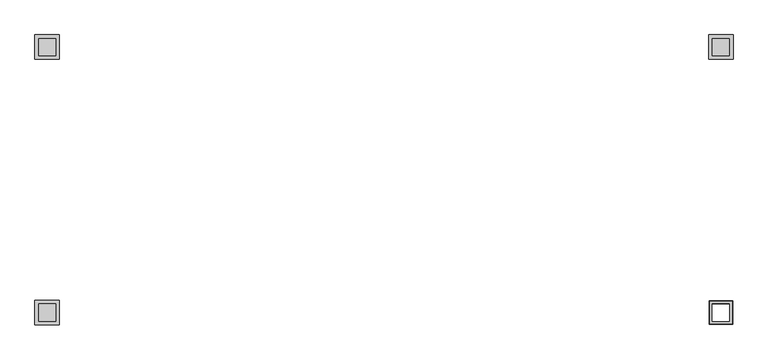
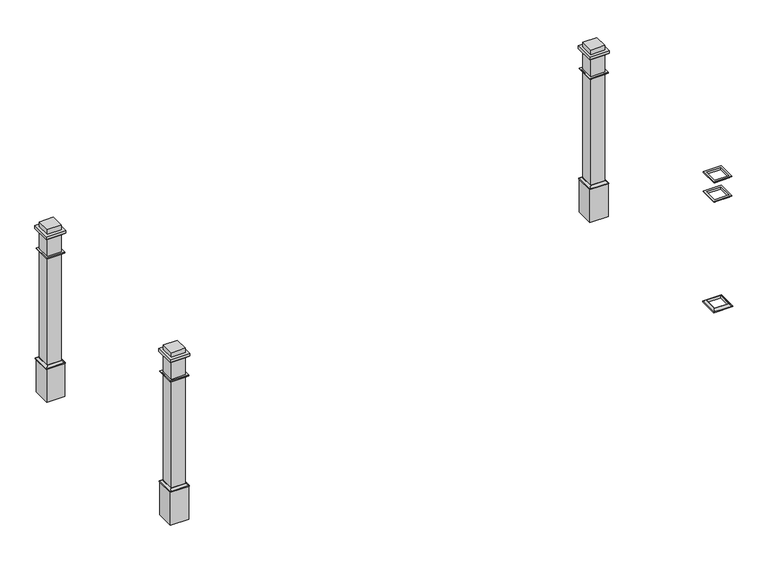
"""IFC4 building model written with IfcOpenShell, lengths in millimetres: railing geometry, Deco Type."""

from ifc_helpers import new_model, si_unit, frame, origin, place, context, project, spatial, polyline, ellipse_curve, outline, extrude, faceted_brep, source, transform, mapped, element, save
from ifc_brep_helpers import plane_surface, revolved_surface, advanced_brep


def railing_f539a773(model_context):
    return source(origin(), model_context, "Body", "SolidModel", [
        advanced_brep(
        [(-6672.1906648, -9796.5505549, 101.6), (-6672.1906648, -9796.5505549, 123.825), (-6551.5406648, -9796.5505549, 123.825), (-6551.5406648, -9796.5505549, 101.6), (-6694.4156648, -9818.7755549, 107.95), (-6694.4156648, -9818.7755549, 101.6), (-6529.3156648, -9818.7755549, 101.6), (-6529.3156648, -9818.7755549, 107.95), (-6678.5406648, -9802.9005549, 123.825), (-6545.1906648, -9802.9005549, 123.825), (-6551.5406648, -9675.9005549, 123.825), (-6551.5406648, -9675.9005549, 101.6), (-6529.3156648, -9653.6755549, 101.6), (-6529.3156648, -9653.6755549, 107.95), (-6545.1906648, -9669.5505549, 123.825), (-6672.1906648, -9675.9005549, 123.825), (-6672.1906648, -9675.9005549, 101.6), (-6694.4156648, -9653.6755549, 101.6), (-6694.4156648, -9653.6755549, 107.95), (-6678.5406648, -9669.5505549, 123.825)],
        [
            (0, 1),
            (1, 2),
            (2, 3),
            (3, 0),
            (4, 5),
            (5, 6),
            (6, 7),
            (7, 4),
            (8, 4, ellipse_curve(frame((-6694.4156648, -9818.7755549, 123.825), z_axis=(-0.7071067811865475, 0.7071067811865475, 0.0), x_axis=(0.7071067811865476, 0.7071067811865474, 0.0)), 22.4506403, 15.875)),
            (7, 9, ellipse_curve(frame((-6529.3156648, -9818.7755549, 123.825), z_axis=(0.7071067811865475, 0.7071067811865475, 0.0), x_axis=(0.7071067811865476, -0.7071067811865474, 0.0)), 22.4506403, 15.875)),
            (9, 8),
            (2, 10),
            (10, 11),
            (11, 3),
            (6, 12),
            (12, 13),
            (13, 7),
            (13, 14, ellipse_curve(frame((-6529.3156648, -9653.6755549, 123.825), z_axis=(-0.7071067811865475, 0.7071067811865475, 0.0), x_axis=(0.7071067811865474, 0.7071067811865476, 0.0)), 22.4506403, 15.875)),
            (14, 9),
            (10, 15),
            (15, 16),
            (16, 11),
            (12, 17),
            (17, 18),
            (18, 13),
            (18, 19, ellipse_curve(frame((-6694.4156648, -9653.6755549, 123.825), z_axis=(-0.7071067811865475, -0.7071067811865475, 0.0), x_axis=(-0.7071067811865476, 0.7071067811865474, 0.0)), 22.4506403, 15.875)),
            (19, 14),
            (15, 1),
            (0, 16),
            (5, 17),
            (4, 18),
            (8, 19),
        ],
        [
            plane_surface(frame((-6672.1906648, -9796.5505549, 123.825), z_axis=(0.0, 1.0, 0.0), x_axis=(1.0, 0.0, 0.0))),
            plane_surface(frame((-6694.4156648, -9818.7755549, 101.6), z_axis=(0.0, -1.0, 0.0), x_axis=(1.0, 0.0, 0.0))),
            revolved_surface(polyline([(-6513.44066480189, -9802.9005549, 123.825), (-6710.29066479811, -9802.9005549, 123.825)]), (-6672.1906648, -9818.7755549, 123.825), (1.0, 0.0, 0.0)),
            plane_surface(frame((-6551.5406648, -9796.5505549, 123.825), z_axis=(-1.0, 0.0, 0.0), x_axis=(0.0, 1.0, 0.0))),
            plane_surface(frame((-6529.3156648, -9818.7755549, 101.6), z_axis=(1.0, 0.0, 0.0), x_axis=(0.0, 1.0, 0.0))),
            revolved_surface(polyline([(-6545.1906648, -9637.80055490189, 123.825), (-6545.1906648, -9834.65055489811, 123.825)]), (-6529.3156648, -9796.5505549, 123.825), (0.0, 1.0, 0.0)),
            plane_surface(frame((-6551.5406648, -9675.9005549, 123.825), z_axis=(0.0, -1.0, 0.0), x_axis=(-1.0, 0.0, 0.0))),
            plane_surface(frame((-6529.3156648, -9653.6755549, 101.6), z_axis=(0.0, 1.0, 0.0), x_axis=(-1.0, 0.0, 0.0))),
            revolved_surface(polyline([(-6710.29066479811, -9669.5505549, 123.825), (-6513.44066480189, -9669.5505549, 123.825)]), (-6551.5406648, -9653.6755549, 123.825), (-1.0, 0.0, 0.0)),
            plane_surface(frame((-6672.1906648, -9675.9005549, 123.825), z_axis=(1.0, 0.0, 0.0), x_axis=(0.0, -1.0, 0.0))),
            plane_surface(frame((-6672.1906648, -9675.9005549, 101.6), z_axis=(0.0, 0.0, -1.0), x_axis=(0.0, -1.0, 0.0))),
            plane_surface(frame((-6694.4156648, -9653.6755549, 101.6), z_axis=(-1.0, 0.0, 0.0), x_axis=(0.0, -1.0, 0.0))),
            revolved_surface(polyline([(-6678.5406648, -9834.65055489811, 123.825), (-6678.5406648, -9637.80055490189, 123.825)]), (-6694.4156648, -9675.9005549, 123.825), (0.0, -1.0, 0.0)),
            plane_surface(frame((-6678.5406648, -9669.5505549, 123.825), z_axis=(0.0, 0.0, 1.0), x_axis=(0.0, -1.0, 0.0))),
        ],
        [
            (0, [[1, 2, 3, 4]]),
            (1, [[5, 6, 7, 8]]),
            (2, [[9, -8, 10, 11]]),
            (3, [[-3, 12, 13, 14]]),
            (4, [[-7, 15, 16, 17]]),
            (5, [[-10, -17, 18, 19]]),
            (6, [[-13, 20, 21, 22]]),
            (7, [[-16, 23, 24, 25]]),
            (8, [[-18, -25, 26, 27]]),
            (9, [[-21, 28, -1, 29]]),
            (10, [[30, -23, -15, -6], [-14, -22, -29, -4]]),
            (11, [[-24, -30, -5, 31]]),
            (12, [[-26, -31, -9, 32]]),
            (13, [[-19, -27, -32, -11], [-28, -20, -12, -2]]),
        ],
    ),
        advanced_brep(
        [(-6672.1906648, -9796.5505549, 1108.075), (-6672.1906648, -9796.5505549, 1127.125), (-6551.5406648, -9796.5505549, 1127.125), (-6551.5406648, -9796.5505549, 1108.075), (-6691.2406648, -9815.6005549, 1120.775), (-6678.5406648, -9802.9005549, 1108.075), (-6545.1906648, -9802.9005549, 1108.075), (-6532.4906648, -9815.6005549, 1120.775), (-6691.2406648, -9815.6005549, 1127.125), (-6532.4906648, -9815.6005549, 1127.125), (-6551.5406648, -9675.9005549, 1127.125), (-6551.5406648, -9675.9005549, 1108.075), (-6545.1906648, -9669.5505549, 1108.075), (-6532.4906648, -9656.8505549, 1120.775), (-6532.4906648, -9656.8505549, 1127.125), (-6672.1906648, -9675.9005549, 1127.125), (-6672.1906648, -9675.9005549, 1108.075), (-6678.5406648, -9669.5505549, 1108.075), (-6691.2406648, -9656.8505549, 1120.775), (-6691.2406648, -9656.8505549, 1127.125)],
        [
            (0, 1),
            (1, 2),
            (2, 3),
            (3, 0),
            (4, 5, ellipse_curve(frame((-6691.2406648, -9815.6005549, 1108.075), z_axis=(-0.7071067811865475, 0.7071067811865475, 0.0), x_axis=(0.7071067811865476, 0.7071067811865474, 0.0)), 17.9605122, 12.7)),
            (5, 6),
            (6, 7, ellipse_curve(frame((-6532.4906648, -9815.6005549, 1108.075), z_axis=(0.7071067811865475, 0.7071067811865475, 0.0), x_axis=(0.7071067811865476, -0.7071067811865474, 0.0)), 17.9605122, 12.7)),
            (7, 4),
            (8, 4),
            (7, 9),
            (9, 8),
            (2, 10),
            (10, 11),
            (11, 3),
            (6, 12),
            (12, 13, ellipse_curve(frame((-6532.4906648, -9656.8505549, 1108.075), z_axis=(-0.7071067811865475, 0.7071067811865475, 0.0), x_axis=(0.7071067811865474, 0.7071067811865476, 0.0)), 17.9605122, 12.7)),
            (13, 7),
            (13, 14),
            (14, 9),
            (10, 15),
            (15, 16),
            (16, 11),
            (12, 17),
            (17, 18, ellipse_curve(frame((-6691.2406648, -9656.8505549, 1108.075), z_axis=(-0.7071067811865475, -0.7071067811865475, 0.0), x_axis=(-0.7071067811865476, 0.7071067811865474, 0.0)), 17.9605122, 12.7)),
            (18, 13),
            (18, 19),
            (19, 14),
            (19, 8),
            (1, 15),
            (0, 16),
            (5, 17),
            (4, 18),
        ],
        [
            plane_surface(frame((-6672.1906648, -9796.5505549, 1127.125), z_axis=(0.0, 1.0, 0.0), x_axis=(1.0, 0.0, 0.0))),
            revolved_surface(polyline([(-6519.790664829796, -9802.9005549, 1108.075), (-6703.9406647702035, -9802.9005549, 1108.075)]), (-6672.1906648, -9815.6005549, 1108.075), (1.0, 0.0, 0.0)),
            plane_surface(frame((-6691.2406648, -9815.6005549, 1120.775), z_axis=(0.0, -1.0, 0.0), x_axis=(1.0, 0.0, 0.0))),
            plane_surface(frame((-6551.5406648, -9796.5505549, 1127.125), z_axis=(-1.0, 0.0, 0.0), x_axis=(0.0, 1.0, 0.0))),
            revolved_surface(polyline([(-6545.1906647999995, -9644.150554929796, 1108.075), (-6545.1906647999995, -9828.300554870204, 1108.075)]), (-6532.4906648, -9796.5505549, 1108.075), (0.0, 1.0, 0.0)),
            plane_surface(frame((-6532.4906648, -9815.6005549, 1120.775), z_axis=(1.0, 0.0, 0.0), x_axis=(0.0, 1.0, 0.0))),
            plane_surface(frame((-6551.5406648, -9675.9005549, 1127.125), z_axis=(0.0, -1.0, 0.0), x_axis=(-1.0, 0.0, 0.0))),
            revolved_surface(polyline([(-6703.9406647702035, -9669.5505549, 1108.075), (-6519.790664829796, -9669.5505549, 1108.075)]), (-6551.5406648, -9656.8505549, 1108.075), (-1.0, 0.0, 0.0)),
            plane_surface(frame((-6532.4906648, -9656.8505549, 1120.775), z_axis=(0.0, 1.0, 0.0), x_axis=(-1.0, 0.0, 0.0))),
            plane_surface(frame((-6691.2406648, -9656.8505549, 1127.125), z_axis=(0.0, 0.0, 1.0), x_axis=(0.0, -1.0, 0.0))),
            plane_surface(frame((-6672.1906648, -9675.9005549, 1127.125), z_axis=(1.0, 0.0, 0.0), x_axis=(0.0, -1.0, 0.0))),
            plane_surface(frame((-6672.1906648, -9675.9005549, 1108.075), z_axis=(0.0, 0.0, -1.0), x_axis=(0.0, -1.0, 0.0))),
            revolved_surface(polyline([(-6678.5406648, -9828.300554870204, 1108.075), (-6678.5406648, -9644.150554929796, 1108.075)]), (-6691.2406648, -9675.9005549, 1108.075), (0.0, -1.0, 0.0)),
            plane_surface(frame((-6691.2406648, -9656.8505549, 1120.775), z_axis=(-1.0, 0.0, 0.0), x_axis=(0.0, -1.0, 0.0))),
        ],
        [
            (0, [[1, 2, 3, 4]]),
            (1, [[5, 6, 7, 8]]),
            (2, [[9, -8, 10, 11]]),
            (3, [[-3, 12, 13, 14]]),
            (4, [[-7, 15, 16, 17]]),
            (5, [[-10, -17, 18, 19]]),
            (6, [[-13, 20, 21, 22]]),
            (7, [[-16, 23, 24, 25]]),
            (8, [[-18, -25, 26, 27]]),
            (9, [[-19, -27, 28, -11], [29, -20, -12, -2]]),
            (10, [[-21, -29, -1, 30]]),
            (11, [[31, -23, -15, -6], [-14, -22, -30, -4]]),
            (12, [[-24, -31, -5, 32]]),
            (13, [[-26, -32, -9, -28]]),
        ],
    ),
        faceted_brep([(-6672.1906648, -9796.5505549, 1285.875), (-6672.1906648, -9796.5505549, 1304.925), (-6551.5406648, -9796.5505549, 1304.925), (-6551.5406648, -9796.5505549, 1285.875), (-6678.5406648, -9802.9005549, 1298.575), (-6678.5406648, -9802.9005549, 1285.875), (-6545.1906648, -9802.9005549, 1285.875), (-6545.1906648, -9802.9005549, 1298.575), (-6691.2406648, -9815.6005549, 1304.925), (-6691.2406648, -9815.6005549, 1298.575), (-6532.4906648, -9815.6005549, 1298.575), (-6532.4906648, -9815.6005549, 1304.925), (-6551.5406648, -9675.9005549, 1304.925), (-6551.5406648, -9675.9005549, 1285.875), (-6545.1906648, -9669.5505549, 1285.875), (-6545.1906648, -9669.5505549, 1298.575), (-6532.4906648, -9656.8505549, 1298.575), (-6532.4906648, -9656.8505549, 1304.925), (-6672.1906648, -9675.9005549, 1304.925), (-6672.1906648, -9675.9005549, 1285.875), (-6678.5406648, -9669.5505549, 1285.875), (-6678.5406648, -9669.5505549, 1298.575), (-6691.2406648, -9656.8505549, 1298.575), (-6691.2406648, -9656.8505549, 1304.925)], [[[0, 1, 2, 3]], [[4, 5, 6, 7]], [[8, 9, 10, 11]], [[3, 2, 12, 13]], [[7, 6, 14, 15]], [[11, 10, 16, 17]], [[13, 12, 18, 19]], [[15, 14, 20, 21]], [[17, 16, 22, 23]], [[19, 18, 1, 0]], [[5, 20, 14, 6], [3, 13, 19, 0]], [[21, 20, 5, 4]], [[9, 22, 16, 10], [7, 15, 21, 4]], [[23, 22, 9, 8]], [[11, 17, 23, 8], [1, 18, 12, 2]]]),
        extrude(outline(polyline([(-11275.1469148, -9656.8505549), (-11275.1469148, -9815.6005549), (-11433.8969148, -9815.6005549), (-11433.8969148, -9656.8505549), (-11275.1469148, -9656.8505549)])), frame((0.0, 0.0, -203.2), z_axis=(0.0, 0.0, 1.0), x_axis=(1.0, 0.0, 0.0)), (0.0, 0.0, 1.0), 304.8),
        extrude(outline(polyline([(-11294.1969148, -9675.9005549), (-11294.1969148, -9796.5505549), (-11414.8469148, -9796.5505549), (-11414.8469148, -9675.9005549), (-11294.1969148, -9675.9005549)])), frame((0.0, 0.0, 101.6), z_axis=(0.0, 0.0, 1.0), x_axis=(1.0, 0.0, 0.0)), (0.0, 0.0, 1.0), 1270.0),
        extrude(outline(polyline([(-11440.2469148, -9650.5005549), (-11268.7969148, -9650.5005549), (-11268.7969148, -9821.9505549), (-11440.2469148, -9821.9505549), (-11440.2469148, -9650.5005549)]), holes=[polyline([(-11414.8469148, -9796.5505549), (-11294.1969148, -9796.5505549), (-11294.1969148, -9675.9005549), (-11414.8469148, -9675.9005549), (-11414.8469148, -9796.5505549)])]), frame((0.0, 0.0, 1304.925), z_axis=(0.0, 0.0, 1.0), x_axis=(1.0, 0.0, 0.0)), (0.0, 0.0, 1.0), 25.4),
        advanced_brep(
        [(-11414.8469148, -9675.9005549, 101.6), (-11414.8469148, -9675.9005549, 123.825), (-11414.8469148, -9796.5505549, 123.825), (-11414.8469148, -9796.5505549, 101.6), (-11437.0719148, -9653.6755549, 107.95), (-11437.0719148, -9653.6755549, 101.6), (-11437.0719148, -9818.7755549, 101.6), (-11437.0719148, -9818.7755549, 107.95), (-11421.1969148, -9669.5505549, 123.825), (-11421.1969148, -9802.9005549, 123.825), (-11294.1969148, -9796.5505549, 123.825), (-11294.1969148, -9796.5505549, 101.6), (-11271.9719148, -9818.7755549, 101.6), (-11271.9719148, -9818.7755549, 107.95), (-11287.8469148, -9802.9005549, 123.825), (-11294.1969148, -9675.9005549, 123.825), (-11294.1969148, -9675.9005549, 101.6), (-11271.9719148, -9653.6755549, 101.6), (-11271.9719148, -9653.6755549, 107.95), (-11287.8469148, -9669.5505549, 123.825)],
        [
            (0, 1),
            (1, 2),
            (2, 3),
            (3, 0),
            (4, 5),
            (5, 6),
            (6, 7),
            (7, 4),
            (8, 4, ellipse_curve(frame((-11437.0719148, -9653.6755549, 123.825), z_axis=(0.7071067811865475, 0.7071067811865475, 0.0), x_axis=(0.7071067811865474, -0.7071067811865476, 0.0)), 22.4506403, 15.875)),
            (7, 9, ellipse_curve(frame((-11437.0719148, -9818.7755549, 123.825), z_axis=(0.7071067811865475, -0.7071067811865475, 0.0), x_axis=(-0.7071067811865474, -0.7071067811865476, 0.0)), 22.4506403, 15.875)),
            (9, 8),
            (2, 10),
            (10, 11),
            (11, 3),
            (6, 12),
            (12, 13),
            (13, 7),
            (13, 14, ellipse_curve(frame((-11271.9719148, -9818.7755549, 123.825), z_axis=(0.7071067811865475, 0.7071067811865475, 0.0), x_axis=(0.7071067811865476, -0.7071067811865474, 0.0)), 22.4506403, 15.875)),
            (14, 9),
            (10, 15),
            (15, 16),
            (16, 11),
            (12, 17),
            (17, 18),
            (18, 13),
            (18, 19, ellipse_curve(frame((-11271.9719148, -9653.6755549, 123.825), z_axis=(-0.7071067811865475, 0.7071067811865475, 0.0), x_axis=(0.7071067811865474, 0.7071067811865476, 0.0)), 22.4506403, 15.875)),
            (19, 14),
            (15, 1),
            (0, 16),
            (5, 17),
            (4, 18),
            (8, 19),
        ],
        [
            plane_surface(frame((-11414.8469148, -9675.9005549, 123.825), z_axis=(1.0, 0.0, 0.0), x_axis=(0.0, -1.0, 0.0))),
            plane_surface(frame((-11437.0719148, -9653.6755549, 101.6), z_axis=(-1.0, 0.0, 0.0), x_axis=(0.0, -1.0, 0.0))),
            revolved_surface(polyline([(-11421.1969148, -9834.65055489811, 123.825), (-11421.1969148, -9637.80055490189, 123.825)]), (-11437.0719148, -9675.9005549, 123.825), (0.0, -1.0, 0.0)),
            plane_surface(frame((-11414.8469148, -9796.5505549, 123.825), z_axis=(0.0, 1.0, 0.0), x_axis=(1.0, 0.0, 0.0))),
            plane_surface(frame((-11437.0719148, -9818.7755549, 101.6), z_axis=(0.0, -1.0, 0.0), x_axis=(1.0, 0.0, 0.0))),
            revolved_surface(polyline([(-11256.09691480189, -9802.9005549, 123.825), (-11452.94691479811, -9802.9005549, 123.825)]), (-11414.8469148, -9818.7755549, 123.825), (1.0, 0.0, 0.0)),
            plane_surface(frame((-11294.1969148, -9796.5505549, 123.825), z_axis=(-1.0, 0.0, 0.0), x_axis=(0.0, 1.0, 0.0))),
            plane_surface(frame((-11271.9719148, -9818.7755549, 101.6), z_axis=(1.0, 0.0, 0.0), x_axis=(0.0, 1.0, 0.0))),
            revolved_surface(polyline([(-11287.8469148, -9637.80055490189, 123.825), (-11287.8469148, -9834.65055489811, 123.825)]), (-11271.9719148, -9796.5505549, 123.825), (0.0, 1.0, 0.0)),
            plane_surface(frame((-11294.1969148, -9675.9005549, 123.825), z_axis=(0.0, -1.0, 0.0), x_axis=(-1.0, 0.0, 0.0))),
            plane_surface(frame((-11294.1969148, -9675.9005549, 101.6), z_axis=(0.0, 0.0, -1.0), x_axis=(-1.0, 0.0, 0.0))),
            plane_surface(frame((-11271.9719148, -9653.6755549, 101.6), z_axis=(0.0, 1.0, 0.0), x_axis=(-1.0, 0.0, 0.0))),
            revolved_surface(polyline([(-11452.94691479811, -9669.5505549, 123.825), (-11256.09691480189, -9669.5505549, 123.825)]), (-11294.1969148, -9653.6755549, 123.825), (-1.0, 0.0, 0.0)),
            plane_surface(frame((-11287.8469148, -9669.5505549, 123.825), z_axis=(0.0, 0.0, 1.0), x_axis=(-1.0, 0.0, 0.0))),
        ],
        [
            (0, [[1, 2, 3, 4]]),
            (1, [[5, 6, 7, 8]]),
            (2, [[9, -8, 10, 11]]),
            (3, [[-3, 12, 13, 14]]),
            (4, [[-7, 15, 16, 17]]),
            (5, [[-10, -17, 18, 19]]),
            (6, [[-13, 20, 21, 22]]),
            (7, [[-16, 23, 24, 25]]),
            (8, [[-18, -25, 26, 27]]),
            (9, [[-21, 28, -1, 29]]),
            (10, [[30, -23, -15, -6], [-14, -22, -29, -4]]),
            (11, [[-24, -30, -5, 31]]),
            (12, [[-26, -31, -9, 32]]),
            (13, [[-19, -27, -32, -11], [-28, -20, -12, -2]]),
        ],
    ),
        advanced_brep(
        [(-11414.8469148, -9675.9005549, 1108.075), (-11414.8469148, -9675.9005549, 1127.125), (-11414.8469148, -9796.5505549, 1127.125), (-11414.8469148, -9796.5505549, 1108.075), (-11433.8969148, -9656.8505549, 1120.775), (-11421.1969148, -9669.5505549, 1108.075), (-11421.1969148, -9802.9005549, 1108.075), (-11433.8969148, -9815.6005549, 1120.775), (-11433.8969148, -9656.8505549, 1127.125), (-11433.8969148, -9815.6005549, 1127.125), (-11294.1969148, -9796.5505549, 1127.125), (-11294.1969148, -9796.5505549, 1108.075), (-11287.8469148, -9802.9005549, 1108.075), (-11275.1469148, -9815.6005549, 1120.775), (-11275.1469148, -9815.6005549, 1127.125), (-11294.1969148, -9675.9005549, 1127.125), (-11294.1969148, -9675.9005549, 1108.075), (-11287.8469148, -9669.5505549, 1108.075), (-11275.1469148, -9656.8505549, 1120.775), (-11275.1469148, -9656.8505549, 1127.125)],
        [
            (0, 1),
            (1, 2),
            (2, 3),
            (3, 0),
            (4, 5, ellipse_curve(frame((-11433.8969148, -9656.8505549, 1108.075), z_axis=(0.7071067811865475, 0.7071067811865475, 0.0), x_axis=(0.7071067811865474, -0.7071067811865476, 0.0)), 17.9605122, 12.7)),
            (5, 6),
            (6, 7, ellipse_curve(frame((-11433.8969148, -9815.6005549, 1108.075), z_axis=(0.7071067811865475, -0.7071067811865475, 0.0), x_axis=(-0.7071067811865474, -0.7071067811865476, 0.0)), 17.9605122, 12.7)),
            (7, 4),
            (8, 4),
            (7, 9),
            (9, 8),
            (2, 10),
            (10, 11),
            (11, 3),
            (6, 12),
            (12, 13, ellipse_curve(frame((-11275.1469148, -9815.6005549, 1108.075), z_axis=(0.7071067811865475, 0.7071067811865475, 0.0), x_axis=(0.7071067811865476, -0.7071067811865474, 0.0)), 17.9605122, 12.7)),
            (13, 7),
            (13, 14),
            (14, 9),
            (10, 15),
            (15, 16),
            (16, 11),
            (12, 17),
            (17, 18, ellipse_curve(frame((-11275.1469148, -9656.8505549, 1108.075), z_axis=(-0.7071067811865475, 0.7071067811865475, 0.0), x_axis=(0.7071067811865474, 0.7071067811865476, 0.0)), 17.9605122, 12.7)),
            (18, 13),
            (18, 19),
            (19, 14),
            (19, 8),
            (1, 15),
            (0, 16),
            (5, 17),
            (4, 18),
        ],
        [
            plane_surface(frame((-11414.8469148, -9675.9005549, 1127.125), z_axis=(1.0, 0.0, 0.0), x_axis=(0.0, -1.0, 0.0))),
            revolved_surface(polyline([(-11421.196914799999, -9828.300554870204, 1108.075), (-11421.196914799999, -9644.150554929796, 1108.075)]), (-11433.8969148, -9675.9005549, 1108.075), (0.0, -1.0, 0.0)),
            plane_surface(frame((-11433.8969148, -9656.8505549, 1120.775), z_axis=(-1.0, 0.0, 0.0), x_axis=(0.0, -1.0, 0.0))),
            plane_surface(frame((-11414.8469148, -9796.5505549, 1127.125), z_axis=(0.0, 1.0, 0.0), x_axis=(1.0, 0.0, 0.0))),
            revolved_surface(polyline([(-11262.446914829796, -9802.9005549, 1108.075), (-11446.596914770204, -9802.9005549, 1108.075)]), (-11414.8469148, -9815.6005549, 1108.075), (1.0, 0.0, 0.0)),
            plane_surface(frame((-11433.8969148, -9815.6005549, 1120.775), z_axis=(0.0, -1.0, 0.0), x_axis=(1.0, 0.0, 0.0))),
            plane_surface(frame((-11294.1969148, -9796.5505549, 1127.125), z_axis=(-1.0, 0.0, 0.0), x_axis=(0.0, 1.0, 0.0))),
            revolved_surface(polyline([(-11287.8469148, -9644.150554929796, 1108.075), (-11287.8469148, -9828.300554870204, 1108.075)]), (-11275.1469148, -9796.5505549, 1108.075), (0.0, 1.0, 0.0)),
            plane_surface(frame((-11275.1469148, -9815.6005549, 1120.775), z_axis=(1.0, 0.0, 0.0), x_axis=(0.0, 1.0, 0.0))),
            plane_surface(frame((-11275.1469148, -9656.8505549, 1127.125), z_axis=(0.0, 0.0, 1.0), x_axis=(-1.0, 0.0, 0.0))),
            plane_surface(frame((-11294.1969148, -9675.9005549, 1127.125), z_axis=(0.0, -1.0, 0.0), x_axis=(-1.0, 0.0, 0.0))),
            plane_surface(frame((-11294.1969148, -9675.9005549, 1108.075), z_axis=(0.0, 0.0, -1.0), x_axis=(-1.0, 0.0, 0.0))),
            revolved_surface(polyline([(-11446.596914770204, -9669.5505549, 1108.075), (-11262.446914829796, -9669.5505549, 1108.075)]), (-11294.1969148, -9656.8505549, 1108.075), (-1.0, 0.0, 0.0)),
            plane_surface(frame((-11275.1469148, -9656.8505549, 1120.775), z_axis=(0.0, 1.0, 0.0), x_axis=(-1.0, 0.0, 0.0))),
        ],
        [
            (0, [[1, 2, 3, 4]]),
            (1, [[5, 6, 7, 8]]),
            (2, [[9, -8, 10, 11]]),
            (3, [[-3, 12, 13, 14]]),
            (4, [[-7, 15, 16, 17]]),
            (5, [[-10, -17, 18, 19]]),
            (6, [[-13, 20, 21, 22]]),
            (7, [[-16, 23, 24, 25]]),
            (8, [[-18, -25, 26, 27]]),
            (9, [[-19, -27, 28, -11], [29, -20, -12, -2]]),
            (10, [[-21, -29, -1, 30]]),
            (11, [[31, -23, -15, -6], [-14, -22, -30, -4]]),
            (12, [[-24, -31, -5, 32]]),
            (13, [[-26, -32, -9, -28]]),
        ],
    ),
        faceted_brep([(-11414.8469148, -9675.9005549, 1285.875), (-11414.8469148, -9675.9005549, 1304.925), (-11414.8469148, -9796.5505549, 1304.925), (-11414.8469148, -9796.5505549, 1285.875), (-11421.1969148, -9669.5505549, 1298.575), (-11421.1969148, -9669.5505549, 1285.875), (-11421.1969148, -9802.9005549, 1285.875), (-11421.1969148, -9802.9005549, 1298.575), (-11433.8969148, -9656.8505549, 1304.925), (-11433.8969148, -9656.8505549, 1298.575), (-11433.8969148, -9815.6005549, 1298.575), (-11433.8969148, -9815.6005549, 1304.925), (-11294.1969148, -9796.5505549, 1304.925), (-11294.1969148, -9796.5505549, 1285.875), (-11287.8469148, -9802.9005549, 1285.875), (-11287.8469148, -9802.9005549, 1298.575), (-11275.1469148, -9815.6005549, 1298.575), (-11275.1469148, -9815.6005549, 1304.925), (-11294.1969148, -9675.9005549, 1304.925), (-11294.1969148, -9675.9005549, 1285.875), (-11287.8469148, -9669.5505549, 1285.875), (-11287.8469148, -9669.5505549, 1298.575), (-11275.1469148, -9656.8505549, 1298.575), (-11275.1469148, -9656.8505549, 1304.925)], [[[0, 1, 2, 3]], [[4, 5, 6, 7]], [[8, 9, 10, 11]], [[3, 2, 12, 13]], [[7, 6, 14, 15]], [[11, 10, 16, 17]], [[13, 12, 18, 19]], [[15, 14, 20, 21]], [[17, 16, 22, 23]], [[19, 18, 1, 0]], [[5, 20, 14, 6], [3, 13, 19, 0]], [[21, 20, 5, 4]], [[9, 22, 16, 10], [7, 15, 21, 4]], [[23, 22, 9, 8]], [[11, 17, 23, 8], [1, 18, 12, 2]]]),
        extrude(outline(polyline([(-6691.2406648, -7943.5411799), (-6691.2406648, -7784.7911799), (-6532.4906648, -7784.7911799), (-6532.4906648, -7943.5411799), (-6691.2406648, -7943.5411799)])), frame((0.0, 0.0, -203.2), z_axis=(0.0, 0.0, 1.0), x_axis=(1.0, 0.0, 0.0)), (0.0, 0.0, 1.0), 304.8),
        extrude(outline(polyline([(-6672.1906648, -7924.4911799), (-6672.1906648, -7803.8411799), (-6551.5406648, -7803.8411799), (-6551.5406648, -7924.4911799), (-6672.1906648, -7924.4911799)])), frame((0.0, 0.0, 101.6), z_axis=(0.0, 0.0, 1.0), x_axis=(1.0, 0.0, 0.0)), (0.0, 0.0, 1.0), 1270.0),
        extrude(outline(polyline([(-6526.1406648, -7949.8911799), (-6697.5906648, -7949.8911799), (-6697.5906648, -7778.4411799), (-6526.1406648, -7778.4411799), (-6526.1406648, -7949.8911799)]), holes=[polyline([(-6551.5406648, -7803.8411799), (-6672.1906648, -7803.8411799), (-6672.1906648, -7924.4911799), (-6551.5406648, -7924.4911799), (-6551.5406648, -7803.8411799)])]), frame((0.0, 0.0, 1304.925), z_axis=(0.0, 0.0, 1.0), x_axis=(1.0, 0.0, 0.0)), (0.0, 0.0, 1.0), 25.4),
        advanced_brep(
        [(-6551.5406648, -7924.4911799, 101.6), (-6551.5406648, -7924.4911799, 123.825), (-6551.5406648, -7803.8411799, 123.825), (-6551.5406648, -7803.8411799, 101.6), (-6529.3156648, -7946.7161799, 107.95), (-6529.3156648, -7946.7161799, 101.6), (-6529.3156648, -7781.6161799, 101.6), (-6529.3156648, -7781.6161799, 107.95), (-6545.1906648, -7930.8411799, 123.825), (-6545.1906648, -7797.4911799, 123.825), (-6672.1906648, -7803.8411799, 123.825), (-6672.1906648, -7803.8411799, 101.6), (-6694.4156648, -7781.6161799, 101.6), (-6694.4156648, -7781.6161799, 107.95), (-6678.5406648, -7797.4911799, 123.825), (-6672.1906648, -7924.4911799, 123.825), (-6672.1906648, -7924.4911799, 101.6), (-6694.4156648, -7946.7161799, 101.6), (-6694.4156648, -7946.7161799, 107.95), (-6678.5406648, -7930.8411799, 123.825)],
        [
            (0, 1),
            (1, 2),
            (2, 3),
            (3, 0),
            (4, 5),
            (5, 6),
            (6, 7),
            (7, 4),
            (8, 4, ellipse_curve(frame((-6529.3156648, -7946.7161799, 123.825), z_axis=(-0.7071067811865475, -0.7071067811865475, 0.0), x_axis=(-0.7071067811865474, 0.7071067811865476, 0.0)), 22.4506403, 15.875)),
            (7, 9, ellipse_curve(frame((-6529.3156648, -7781.6161799, 123.825), z_axis=(-0.7071067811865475, 0.7071067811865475, 0.0), x_axis=(0.7071067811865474, 0.7071067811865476, 0.0)), 22.4506403, 15.875)),
            (9, 8),
            (2, 10),
            (10, 11),
            (11, 3),
            (6, 12),
            (12, 13),
            (13, 7),
            (13, 14, ellipse_curve(frame((-6694.4156648, -7781.6161799, 123.825), z_axis=(-0.7071067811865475, -0.7071067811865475, 0.0), x_axis=(-0.7071067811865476, 0.7071067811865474, 0.0)), 22.4506403, 15.875)),
            (14, 9),
            (10, 15),
            (15, 16),
            (16, 11),
            (12, 17),
            (17, 18),
            (18, 13),
            (18, 19, ellipse_curve(frame((-6694.4156648, -7946.7161799, 123.825), z_axis=(0.7071067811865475, -0.7071067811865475, 0.0), x_axis=(-0.7071067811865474, -0.7071067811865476, 0.0)), 22.4506403, 15.875)),
            (19, 14),
            (15, 1),
            (0, 16),
            (5, 17),
            (4, 18),
            (8, 19),
        ],
        [
            plane_surface(frame((-6551.5406648, -7924.4911799, 123.825), z_axis=(-1.0, 0.0, 0.0), x_axis=(0.0, 1.0, 0.0))),
            plane_surface(frame((-6529.3156648, -7946.7161799, 101.6), z_axis=(1.0, 0.0, 0.0), x_axis=(0.0, 1.0, 0.0))),
            revolved_surface(polyline([(-6545.1906648, -7765.74117990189, 123.825), (-6545.1906648, -7962.59117989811, 123.825)]), (-6529.3156648, -7924.4911799, 123.825), (0.0, 1.0, 0.0)),
            plane_surface(frame((-6551.5406648, -7803.8411799, 123.825), z_axis=(0.0, -1.0, 0.0), x_axis=(-1.0, 0.0, 0.0))),
            plane_surface(frame((-6529.3156648, -7781.6161799, 101.6), z_axis=(0.0, 1.0, 0.0), x_axis=(-1.0, 0.0, 0.0))),
            revolved_surface(polyline([(-6710.29066479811, -7797.4911799, 123.825), (-6513.44066480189, -7797.4911799, 123.825)]), (-6551.5406648, -7781.6161799, 123.825), (-1.0, 0.0, 0.0)),
            plane_surface(frame((-6672.1906648, -7803.8411799, 123.825), z_axis=(1.0, 0.0, 0.0), x_axis=(0.0, -1.0, 0.0))),
            plane_surface(frame((-6694.4156648, -7781.6161799, 101.6), z_axis=(-1.0, 0.0, 0.0), x_axis=(0.0, -1.0, 0.0))),
            revolved_surface(polyline([(-6678.5406648, -7962.59117989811, 123.825), (-6678.5406648, -7765.74117990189, 123.825)]), (-6694.4156648, -7803.8411799, 123.825), (0.0, -1.0, 0.0)),
            plane_surface(frame((-6672.1906648, -7924.4911799, 123.825), z_axis=(0.0, 1.0, 0.0), x_axis=(1.0, 0.0, 0.0))),
            plane_surface(frame((-6672.1906648, -7924.4911799, 101.6), z_axis=(0.0, 0.0, -1.0), x_axis=(1.0, 0.0, 0.0))),
            plane_surface(frame((-6694.4156648, -7946.7161799, 101.6), z_axis=(0.0, -1.0, 0.0), x_axis=(1.0, 0.0, 0.0))),
            revolved_surface(polyline([(-6513.44066480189, -7930.8411799, 123.825), (-6710.29066479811, -7930.8411799, 123.825)]), (-6672.1906648, -7946.7161799, 123.825), (1.0, 0.0, 0.0)),
            plane_surface(frame((-6678.5406648, -7930.8411799, 123.825), z_axis=(0.0, 0.0, 1.0), x_axis=(1.0, 0.0, 0.0))),
        ],
        [
            (0, [[1, 2, 3, 4]]),
            (1, [[5, 6, 7, 8]]),
            (2, [[9, -8, 10, 11]]),
            (3, [[-3, 12, 13, 14]]),
            (4, [[-7, 15, 16, 17]]),
            (5, [[-10, -17, 18, 19]]),
            (6, [[-13, 20, 21, 22]]),
            (7, [[-16, 23, 24, 25]]),
            (8, [[-18, -25, 26, 27]]),
            (9, [[-21, 28, -1, 29]]),
            (10, [[30, -23, -15, -6], [-14, -22, -29, -4]]),
            (11, [[-24, -30, -5, 31]]),
            (12, [[-26, -31, -9, 32]]),
            (13, [[-19, -27, -32, -11], [-28, -20, -12, -2]]),
        ],
    ),
        advanced_brep(
        [(-6551.5406648, -7924.4911799, 1108.075), (-6551.5406648, -7924.4911799, 1127.125), (-6551.5406648, -7803.8411799, 1127.125), (-6551.5406648, -7803.8411799, 1108.075), (-6532.4906648, -7943.5411799, 1120.775), (-6545.1906648, -7930.8411799, 1108.075), (-6545.1906648, -7797.4911799, 1108.075), (-6532.4906648, -7784.7911799, 1120.775), (-6532.4906648, -7943.5411799, 1127.125), (-6532.4906648, -7784.7911799, 1127.125), (-6672.1906648, -7803.8411799, 1127.125), (-6672.1906648, -7803.8411799, 1108.075), (-6678.5406648, -7797.4911799, 1108.075), (-6691.2406648, -7784.7911799, 1120.775), (-6691.2406648, -7784.7911799, 1127.125), (-6672.1906648, -7924.4911799, 1127.125), (-6672.1906648, -7924.4911799, 1108.075), (-6678.5406648, -7930.8411799, 1108.075), (-6691.2406648, -7943.5411799, 1120.775), (-6691.2406648, -7943.5411799, 1127.125)],
        [
            (0, 1),
            (1, 2),
            (2, 3),
            (3, 0),
            (4, 5, ellipse_curve(frame((-6532.4906648, -7943.5411799, 1108.075), z_axis=(-0.7071067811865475, -0.7071067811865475, 0.0), x_axis=(-0.7071067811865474, 0.7071067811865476, 0.0)), 17.9605122, 12.7)),
            (5, 6),
            (6, 7, ellipse_curve(frame((-6532.4906648, -7784.7911799, 1108.075), z_axis=(-0.7071067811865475, 0.7071067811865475, 0.0), x_axis=(0.7071067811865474, 0.7071067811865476, 0.0)), 17.9605122, 12.7)),
            (7, 4),
            (8, 4),
            (7, 9),
            (9, 8),
            (2, 10),
            (10, 11),
            (11, 3),
            (6, 12),
            (12, 13, ellipse_curve(frame((-6691.2406648, -7784.7911799, 1108.075), z_axis=(-0.7071067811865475, -0.7071067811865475, 0.0), x_axis=(-0.7071067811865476, 0.7071067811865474, 0.0)), 17.9605122, 12.7)),
            (13, 7),
            (13, 14),
            (14, 9),
            (10, 15),
            (15, 16),
            (16, 11),
            (12, 17),
            (17, 18, ellipse_curve(frame((-6691.2406648, -7943.5411799, 1108.075), z_axis=(0.7071067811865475, -0.7071067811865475, 0.0), x_axis=(-0.7071067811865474, -0.7071067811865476, 0.0)), 17.9605122, 12.7)),
            (18, 13),
            (18, 19),
            (19, 14),
            (19, 8),
            (1, 15),
            (0, 16),
            (5, 17),
            (4, 18),
        ],
        [
            plane_surface(frame((-6551.5406648, -7924.4911799, 1127.125), z_axis=(-1.0, 0.0, 0.0), x_axis=(0.0, 1.0, 0.0))),
            revolved_surface(polyline([(-6545.1906647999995, -7772.091179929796, 1108.075), (-6545.1906647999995, -7956.241179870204, 1108.075)]), (-6532.4906648, -7924.4911799, 1108.075), (0.0, 1.0, 0.0)),
            plane_surface(frame((-6532.4906648, -7943.5411799, 1120.775), z_axis=(1.0, 0.0, 0.0), x_axis=(0.0, 1.0, 0.0))),
            plane_surface(frame((-6551.5406648, -7803.8411799, 1127.125), z_axis=(0.0, -1.0, 0.0), x_axis=(-1.0, 0.0, 0.0))),
            revolved_surface(polyline([(-6703.9406647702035, -7797.4911799, 1108.075), (-6519.790664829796, -7797.4911799, 1108.075)]), (-6551.5406648, -7784.7911799, 1108.075), (-1.0, 0.0, 0.0)),
            plane_surface(frame((-6532.4906648, -7784.7911799, 1120.775), z_axis=(0.0, 1.0, 0.0), x_axis=(-1.0, 0.0, 0.0))),
            plane_surface(frame((-6672.1906648, -7803.8411799, 1127.125), z_axis=(1.0, 0.0, 0.0), x_axis=(0.0, -1.0, 0.0))),
            revolved_surface(polyline([(-6678.5406648, -7956.241179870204, 1108.075), (-6678.5406648, -7772.091179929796, 1108.075)]), (-6691.2406648, -7803.8411799, 1108.075), (0.0, -1.0, 0.0)),
            plane_surface(frame((-6691.2406648, -7784.7911799, 1120.775), z_axis=(-1.0, 0.0, 0.0), x_axis=(0.0, -1.0, 0.0))),
            plane_surface(frame((-6691.2406648, -7943.5411799, 1127.125), z_axis=(0.0, 0.0, 1.0), x_axis=(1.0, 0.0, 0.0))),
            plane_surface(frame((-6672.1906648, -7924.4911799, 1127.125), z_axis=(0.0, 1.0, 0.0), x_axis=(1.0, 0.0, 0.0))),
            plane_surface(frame((-6672.1906648, -7924.4911799, 1108.075), z_axis=(0.0, 0.0, -1.0), x_axis=(1.0, 0.0, 0.0))),
            revolved_surface(polyline([(-6519.790664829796, -7930.8411799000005, 1108.075), (-6703.9406647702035, -7930.8411799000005, 1108.075)]), (-6672.1906648, -7943.5411799, 1108.075), (1.0, 0.0, 0.0)),
            plane_surface(frame((-6691.2406648, -7943.5411799, 1120.775), z_axis=(0.0, -1.0, 0.0), x_axis=(1.0, 0.0, 0.0))),
        ],
        [
            (0, [[1, 2, 3, 4]]),
            (1, [[5, 6, 7, 8]]),
            (2, [[9, -8, 10, 11]]),
            (3, [[-3, 12, 13, 14]]),
            (4, [[-7, 15, 16, 17]]),
            (5, [[-10, -17, 18, 19]]),
            (6, [[-13, 20, 21, 22]]),
            (7, [[-16, 23, 24, 25]]),
            (8, [[-18, -25, 26, 27]]),
            (9, [[-19, -27, 28, -11], [29, -20, -12, -2]]),
            (10, [[-21, -29, -1, 30]]),
            (11, [[31, -23, -15, -6], [-14, -22, -30, -4]]),
            (12, [[-24, -31, -5, 32]]),
            (13, [[-26, -32, -9, -28]]),
        ],
    ),
        faceted_brep([(-6551.5406648, -7924.4911799, 1285.875), (-6551.5406648, -7924.4911799, 1304.925), (-6551.5406648, -7803.8411799, 1304.925), (-6551.5406648, -7803.8411799, 1285.875), (-6545.1906648, -7930.8411799, 1298.575), (-6545.1906648, -7930.8411799, 1285.875), (-6545.1906648, -7797.4911799, 1285.875), (-6545.1906648, -7797.4911799, 1298.575), (-6532.4906648, -7943.5411799, 1304.925), (-6532.4906648, -7943.5411799, 1298.575), (-6532.4906648, -7784.7911799, 1298.575), (-6532.4906648, -7784.7911799, 1304.925), (-6672.1906648, -7803.8411799, 1304.925), (-6672.1906648, -7803.8411799, 1285.875), (-6678.5406648, -7797.4911799, 1285.875), (-6678.5406648, -7797.4911799, 1298.575), (-6691.2406648, -7784.7911799, 1298.575), (-6691.2406648, -7784.7911799, 1304.925), (-6672.1906648, -7924.4911799, 1304.925), (-6672.1906648, -7924.4911799, 1285.875), (-6678.5406648, -7930.8411799, 1285.875), (-6678.5406648, -7930.8411799, 1298.575), (-6691.2406648, -7943.5411799, 1298.575), (-6691.2406648, -7943.5411799, 1304.925)], [[[0, 1, 2, 3]], [[4, 5, 6, 7]], [[8, 9, 10, 11]], [[3, 2, 12, 13]], [[7, 6, 14, 15]], [[11, 10, 16, 17]], [[13, 12, 18, 19]], [[15, 14, 20, 21]], [[17, 16, 22, 23]], [[19, 18, 1, 0]], [[5, 20, 14, 6], [3, 13, 19, 0]], [[21, 20, 5, 4]], [[9, 22, 16, 10], [7, 15, 21, 4]], [[23, 22, 9, 8]], [[11, 17, 23, 8], [1, 18, 12, 2]]]),
        extrude(outline(polyline([(-11275.1469148, -7784.7911799), (-11275.1469148, -7943.5411799), (-11433.8969148, -7943.5411799), (-11433.8969148, -7784.7911799), (-11275.1469148, -7784.7911799)])), frame((0.0, 0.0, -203.2), z_axis=(0.0, 0.0, 1.0), x_axis=(1.0, 0.0, 0.0)), (0.0, 0.0, 1.0), 304.8),
        extrude(outline(polyline([(-11294.1969148, -7803.8411799), (-11294.1969148, -7924.4911799), (-11414.8469148, -7924.4911799), (-11414.8469148, -7803.8411799), (-11294.1969148, -7803.8411799)])), frame((0.0, 0.0, 101.6), z_axis=(0.0, 0.0, 1.0), x_axis=(1.0, 0.0, 0.0)), (0.0, 0.0, 1.0), 1270.0),
        extrude(outline(polyline([(-11440.2469148, -7778.4411799), (-11268.7969148, -7778.4411799), (-11268.7969148, -7949.8911799), (-11440.2469148, -7949.8911799), (-11440.2469148, -7778.4411799)]), holes=[polyline([(-11414.8469148, -7924.4911799), (-11294.1969148, -7924.4911799), (-11294.1969148, -7803.8411799), (-11414.8469148, -7803.8411799), (-11414.8469148, -7924.4911799)])]), frame((0.0, 0.0, 1304.925), z_axis=(0.0, 0.0, 1.0), x_axis=(1.0, 0.0, 0.0)), (0.0, 0.0, 1.0), 25.4),
        advanced_brep(
        [(-11414.8469148, -7803.8411799, 101.6), (-11414.8469148, -7803.8411799, 123.825), (-11414.8469148, -7924.4911799, 123.825), (-11414.8469148, -7924.4911799, 101.6), (-11437.0719148, -7781.6161799, 107.95), (-11437.0719148, -7781.6161799, 101.6), (-11437.0719148, -7946.7161799, 101.6), (-11437.0719148, -7946.7161799, 107.95), (-11421.1969148, -7797.4911799, 123.825), (-11421.1969148, -7930.8411799, 123.825), (-11294.1969148, -7924.4911799, 123.825), (-11294.1969148, -7924.4911799, 101.6), (-11271.9719148, -7946.7161799, 101.6), (-11271.9719148, -7946.7161799, 107.95), (-11287.8469148, -7930.8411799, 123.825), (-11294.1969148, -7803.8411799, 123.825), (-11294.1969148, -7803.8411799, 101.6), (-11271.9719148, -7781.6161799, 101.6), (-11271.9719148, -7781.6161799, 107.95), (-11287.8469148, -7797.4911799, 123.825)],
        [
            (0, 1),
            (1, 2),
            (2, 3),
            (3, 0),
            (4, 5),
            (5, 6),
            (6, 7),
            (7, 4),
            (8, 4, ellipse_curve(frame((-11437.0719148, -7781.6161799, 123.825), z_axis=(0.7071067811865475, 0.7071067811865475, 0.0), x_axis=(0.7071067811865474, -0.7071067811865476, 0.0)), 22.4506403, 15.875)),
            (7, 9, ellipse_curve(frame((-11437.0719148, -7946.7161799, 123.825), z_axis=(0.7071067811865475, -0.7071067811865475, 0.0), x_axis=(-0.7071067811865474, -0.7071067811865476, 0.0)), 22.4506403, 15.875)),
            (9, 8),
            (2, 10),
            (10, 11),
            (11, 3),
            (6, 12),
            (12, 13),
            (13, 7),
            (13, 14, ellipse_curve(frame((-11271.9719148, -7946.7161799, 123.825), z_axis=(0.7071067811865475, 0.7071067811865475, 0.0), x_axis=(0.7071067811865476, -0.7071067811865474, 0.0)), 22.4506403, 15.875)),
            (14, 9),
            (10, 15),
            (15, 16),
            (16, 11),
            (12, 17),
            (17, 18),
            (18, 13),
            (18, 19, ellipse_curve(frame((-11271.9719148, -7781.6161799, 123.825), z_axis=(-0.7071067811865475, 0.7071067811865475, 0.0), x_axis=(0.7071067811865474, 0.7071067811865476, 0.0)), 22.4506403, 15.875)),
            (19, 14),
            (15, 1),
            (0, 16),
            (5, 17),
            (4, 18),
            (8, 19),
        ],
        [
            plane_surface(frame((-11414.8469148, -7803.8411799, 123.825), z_axis=(1.0, 0.0, 0.0), x_axis=(0.0, -1.0, 0.0))),
            plane_surface(frame((-11437.0719148, -7781.6161799, 101.6), z_axis=(-1.0, 0.0, 0.0), x_axis=(0.0, -1.0, 0.0))),
            revolved_surface(polyline([(-11421.1969148, -7962.59117989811, 123.825), (-11421.1969148, -7765.74117990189, 123.825)]), (-11437.0719148, -7803.8411799, 123.825), (0.0, -1.0, 0.0)),
            plane_surface(frame((-11414.8469148, -7924.4911799, 123.825), z_axis=(0.0, 1.0, 0.0), x_axis=(1.0, 0.0, 0.0))),
            plane_surface(frame((-11437.0719148, -7946.7161799, 101.6), z_axis=(0.0, -1.0, 0.0), x_axis=(1.0, 0.0, 0.0))),
            revolved_surface(polyline([(-11256.09691480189, -7930.8411799, 123.825), (-11452.94691479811, -7930.8411799, 123.825)]), (-11414.8469148, -7946.7161799, 123.825), (1.0, 0.0, 0.0)),
            plane_surface(frame((-11294.1969148, -7924.4911799, 123.825), z_axis=(-1.0, 0.0, 0.0), x_axis=(0.0, 1.0, 0.0))),
            plane_surface(frame((-11271.9719148, -7946.7161799, 101.6), z_axis=(1.0, 0.0, 0.0), x_axis=(0.0, 1.0, 0.0))),
            revolved_surface(polyline([(-11287.8469148, -7765.74117990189, 123.825), (-11287.8469148, -7962.59117989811, 123.825)]), (-11271.9719148, -7924.4911799, 123.825), (0.0, 1.0, 0.0)),
            plane_surface(frame((-11294.1969148, -7803.8411799, 123.825), z_axis=(0.0, -1.0, 0.0), x_axis=(-1.0, 0.0, 0.0))),
            plane_surface(frame((-11294.1969148, -7803.8411799, 101.6), z_axis=(0.0, 0.0, -1.0), x_axis=(-1.0, 0.0, 0.0))),
            plane_surface(frame((-11271.9719148, -7781.6161799, 101.6), z_axis=(0.0, 1.0, 0.0), x_axis=(-1.0, 0.0, 0.0))),
            revolved_surface(polyline([(-11452.94691479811, -7797.4911799, 123.825), (-11256.09691480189, -7797.4911799, 123.825)]), (-11294.1969148, -7781.6161799, 123.825), (-1.0, 0.0, 0.0)),
            plane_surface(frame((-11287.8469148, -7797.4911799, 123.825), z_axis=(0.0, 0.0, 1.0), x_axis=(-1.0, 0.0, 0.0))),
        ],
        [
            (0, [[1, 2, 3, 4]]),
            (1, [[5, 6, 7, 8]]),
            (2, [[9, -8, 10, 11]]),
            (3, [[-3, 12, 13, 14]]),
            (4, [[-7, 15, 16, 17]]),
            (5, [[-10, -17, 18, 19]]),
            (6, [[-13, 20, 21, 22]]),
            (7, [[-16, 23, 24, 25]]),
            (8, [[-18, -25, 26, 27]]),
            (9, [[-21, 28, -1, 29]]),
            (10, [[30, -23, -15, -6], [-14, -22, -29, -4]]),
            (11, [[-24, -30, -5, 31]]),
            (12, [[-26, -31, -9, 32]]),
            (13, [[-19, -27, -32, -11], [-28, -20, -12, -2]]),
        ],
    ),
        advanced_brep(
        [(-11414.8469148, -7803.8411799, 1108.075), (-11414.8469148, -7803.8411799, 1127.125), (-11414.8469148, -7924.4911799, 1127.125), (-11414.8469148, -7924.4911799, 1108.075), (-11433.8969148, -7784.7911799, 1120.775), (-11421.1969148, -7797.4911799, 1108.075), (-11421.1969148, -7930.8411799, 1108.075), (-11433.8969148, -7943.5411799, 1120.775), (-11433.8969148, -7784.7911799, 1127.125), (-11433.8969148, -7943.5411799, 1127.125), (-11294.1969148, -7924.4911799, 1127.125), (-11294.1969148, -7924.4911799, 1108.075), (-11287.8469148, -7930.8411799, 1108.075), (-11275.1469148, -7943.5411799, 1120.775), (-11275.1469148, -7943.5411799, 1127.125), (-11294.1969148, -7803.8411799, 1127.125), (-11294.1969148, -7803.8411799, 1108.075), (-11287.8469148, -7797.4911799, 1108.075), (-11275.1469148, -7784.7911799, 1120.775), (-11275.1469148, -7784.7911799, 1127.125)],
        [
            (0, 1),
            (1, 2),
            (2, 3),
            (3, 0),
            (4, 5, ellipse_curve(frame((-11433.8969148, -7784.7911799, 1108.075), z_axis=(0.7071067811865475, 0.7071067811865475, 0.0), x_axis=(0.7071067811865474, -0.7071067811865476, 0.0)), 17.9605122, 12.7)),
            (5, 6),
            (6, 7, ellipse_curve(frame((-11433.8969148, -7943.5411799, 1108.075), z_axis=(0.7071067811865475, -0.7071067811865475, 0.0), x_axis=(-0.7071067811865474, -0.7071067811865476, 0.0)), 17.9605122, 12.7)),
            (7, 4),
            (8, 4),
            (7, 9),
            (9, 8),
            (2, 10),
            (10, 11),
            (11, 3),
            (6, 12),
            (12, 13, ellipse_curve(frame((-11275.1469148, -7943.5411799, 1108.075), z_axis=(0.7071067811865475, 0.7071067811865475, 0.0), x_axis=(0.7071067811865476, -0.7071067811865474, 0.0)), 17.9605122, 12.7)),
            (13, 7),
            (13, 14),
            (14, 9),
            (10, 15),
            (15, 16),
            (16, 11),
            (12, 17),
            (17, 18, ellipse_curve(frame((-11275.1469148, -7784.7911799, 1108.075), z_axis=(-0.7071067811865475, 0.7071067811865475, 0.0), x_axis=(0.7071067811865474, 0.7071067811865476, 0.0)), 17.9605122, 12.7)),
            (18, 13),
            (18, 19),
            (19, 14),
            (19, 8),
            (1, 15),
            (0, 16),
            (5, 17),
            (4, 18),
        ],
        [
            plane_surface(frame((-11414.8469148, -7803.8411799, 1127.125), z_axis=(1.0, 0.0, 0.0), x_axis=(0.0, -1.0, 0.0))),
            revolved_surface(polyline([(-11421.196914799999, -7956.241179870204, 1108.075), (-11421.196914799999, -7772.091179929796, 1108.075)]), (-11433.8969148, -7803.8411799, 1108.075), (0.0, -1.0, 0.0)),
            plane_surface(frame((-11433.8969148, -7784.7911799, 1120.775), z_axis=(-1.0, 0.0, 0.0), x_axis=(0.0, -1.0, 0.0))),
            plane_surface(frame((-11414.8469148, -7924.4911799, 1127.125), z_axis=(0.0, 1.0, 0.0), x_axis=(1.0, 0.0, 0.0))),
            revolved_surface(polyline([(-11262.446914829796, -7930.8411799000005, 1108.075), (-11446.596914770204, -7930.8411799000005, 1108.075)]), (-11414.8469148, -7943.5411799, 1108.075), (1.0, 0.0, 0.0)),
            plane_surface(frame((-11433.8969148, -7943.5411799, 1120.775), z_axis=(0.0, -1.0, 0.0), x_axis=(1.0, 0.0, 0.0))),
            plane_surface(frame((-11294.1969148, -7924.4911799, 1127.125), z_axis=(-1.0, 0.0, 0.0), x_axis=(0.0, 1.0, 0.0))),
            revolved_surface(polyline([(-11287.8469148, -7772.091179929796, 1108.075), (-11287.8469148, -7956.241179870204, 1108.075)]), (-11275.1469148, -7924.4911799, 1108.075), (0.0, 1.0, 0.0)),
            plane_surface(frame((-11275.1469148, -7943.5411799, 1120.775), z_axis=(1.0, 0.0, 0.0), x_axis=(0.0, 1.0, 0.0))),
            plane_surface(frame((-11275.1469148, -7784.7911799, 1127.125), z_axis=(0.0, 0.0, 1.0), x_axis=(-1.0, 0.0, 0.0))),
            plane_surface(frame((-11294.1969148, -7803.8411799, 1127.125), z_axis=(0.0, -1.0, 0.0), x_axis=(-1.0, 0.0, 0.0))),
            plane_surface(frame((-11294.1969148, -7803.8411799, 1108.075), z_axis=(0.0, 0.0, -1.0), x_axis=(-1.0, 0.0, 0.0))),
            revolved_surface(polyline([(-11446.596914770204, -7797.4911799, 1108.075), (-11262.446914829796, -7797.4911799, 1108.075)]), (-11294.1969148, -7784.7911799, 1108.075), (-1.0, 0.0, 0.0)),
            plane_surface(frame((-11275.1469148, -7784.7911799, 1120.775), z_axis=(0.0, 1.0, 0.0), x_axis=(-1.0, 0.0, 0.0))),
        ],
        [
            (0, [[1, 2, 3, 4]]),
            (1, [[5, 6, 7, 8]]),
            (2, [[9, -8, 10, 11]]),
            (3, [[-3, 12, 13, 14]]),
            (4, [[-7, 15, 16, 17]]),
            (5, [[-10, -17, 18, 19]]),
            (6, [[-13, 20, 21, 22]]),
            (7, [[-16, 23, 24, 25]]),
            (8, [[-18, -25, 26, 27]]),
            (9, [[-19, -27, 28, -11], [29, -20, -12, -2]]),
            (10, [[-21, -29, -1, 30]]),
            (11, [[31, -23, -15, -6], [-14, -22, -30, -4]]),
            (12, [[-24, -31, -5, 32]]),
            (13, [[-26, -32, -9, -28]]),
        ],
    ),
        faceted_brep([(-11414.8469148, -7803.8411799, 1285.875), (-11414.8469148, -7803.8411799, 1304.925), (-11414.8469148, -7924.4911799, 1304.925), (-11414.8469148, -7924.4911799, 1285.875), (-11421.1969148, -7797.4911799, 1298.575), (-11421.1969148, -7797.4911799, 1285.875), (-11421.1969148, -7930.8411799, 1285.875), (-11421.1969148, -7930.8411799, 1298.575), (-11433.8969148, -7784.7911799, 1304.925), (-11433.8969148, -7784.7911799, 1298.575), (-11433.8969148, -7943.5411799, 1298.575), (-11433.8969148, -7943.5411799, 1304.925), (-11294.1969148, -7924.4911799, 1304.925), (-11294.1969148, -7924.4911799, 1285.875), (-11287.8469148, -7930.8411799, 1285.875), (-11287.8469148, -7930.8411799, 1298.575), (-11275.1469148, -7943.5411799, 1298.575), (-11275.1469148, -7943.5411799, 1304.925), (-11294.1969148, -7803.8411799, 1304.925), (-11294.1969148, -7803.8411799, 1285.875), (-11287.8469148, -7797.4911799, 1285.875), (-11287.8469148, -7797.4911799, 1298.575), (-11275.1469148, -7784.7911799, 1298.575), (-11275.1469148, -7784.7911799, 1304.925)], [[[0, 1, 2, 3]], [[4, 5, 6, 7]], [[8, 9, 10, 11]], [[3, 2, 12, 13]], [[7, 6, 14, 15]], [[11, 10, 16, 17]], [[13, 12, 18, 19]], [[15, 14, 20, 21]], [[17, 16, 22, 23]], [[19, 18, 1, 0]], [[5, 20, 14, 6], [3, 13, 19, 0]], [[21, 20, 5, 4]], [[9, 22, 16, 10], [7, 15, 21, 4]], [[23, 22, 9, 8]], [[11, 17, 23, 8], [1, 18, 12, 2]]]),
    ])


if __name__ == "__main__":
    model = new_model("IFC4")
    model_context = context("Model", 3, world=origin())
    ifc_project = project(units=[si_unit("LENGTHUNIT", "METRE", prefix="MILLI")], contexts=[model_context])
    site = spatial("IfcSite", under=ifc_project)
    building = spatial("IfcBuilding", under=site)
    placement = place(None, origin())
    railing_shape = railing_f539a773(model_context)
    element("IfcRailing", 1, ObjectType="Deco Type", at=placement, inside=building, context=model_context, shape_type="MappedRepresentation", body=[
        mapped(railing_shape, transform((0.0, 0.0, 0.0), x_axis=(1.0, 0.0, 0.0), y_axis=(0.0, 1.0, 0.0), z_axis=(0.0, 0.0, 1.0))),
    ])
    save(model, "model.ifc")
